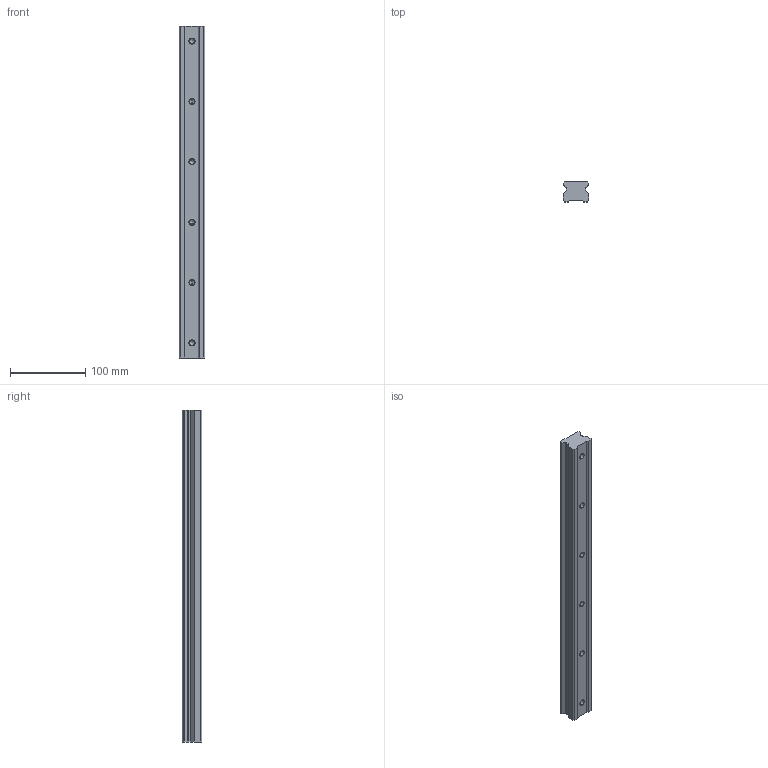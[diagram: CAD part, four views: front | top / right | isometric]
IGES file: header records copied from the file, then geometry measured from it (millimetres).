
Start section: SolidWorks IGES file using analytic representation for surfaces
Global section: file name: C:\Users\IanO\Desktop\Temp File\GENERAL\L1016_v2\L1016.RF35_v2\L1016.RF35_v2_20190612_IGES\L1016.RF35-0440.igs; native system: SolidWorks 2017; preprocessor: SolidWorks 2017; author: IanO; date: 190613.172515; units: millimetre
Bounding box: 34 x 26 x 440 mm (x, y, z)
Surface area: 58843.6 mm2 (no closed solid volume)
Topology: 0 solids, 0 shells, 68 faces, 888 edges, 876 vertices
Faces by surface type: revolution 40, bspline 28
